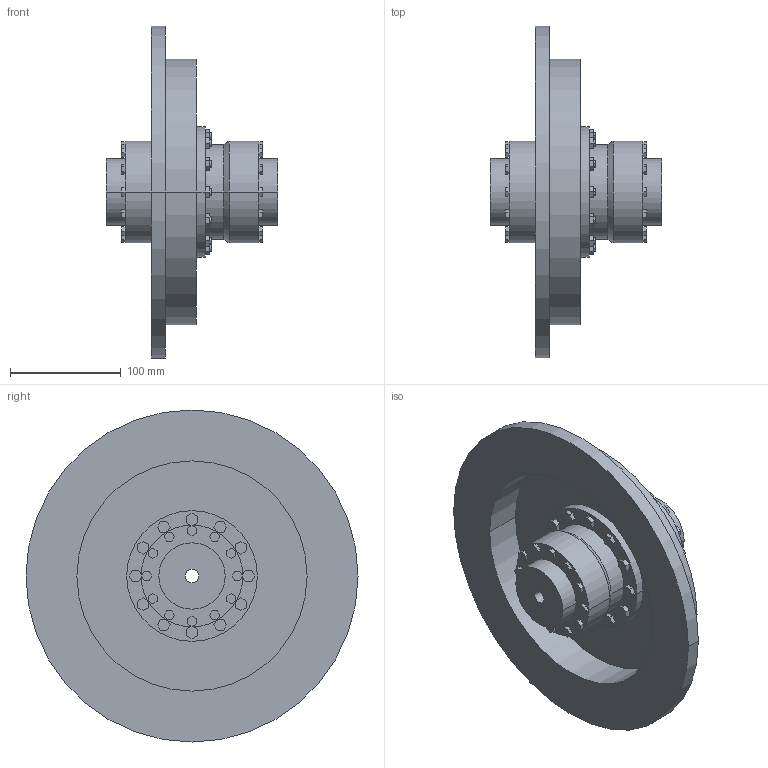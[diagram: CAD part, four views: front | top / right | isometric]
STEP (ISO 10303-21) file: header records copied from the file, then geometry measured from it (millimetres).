
FILE_DESCRIPTION((''),'2;1');
FILE_NAME('A19723700-0_ASM','2019-05-23T',('AB_Roschiwal'),('RENK AG'),'PRO/ENGINEER BY PARAMETRIC TECHNOLOGY CORPORATION, 2015440','PRO/ENGINEER BY PARAMETRIC TECHNOLOGY CORPORATION, 2015440','');
FILE_SCHEMA(('CONFIG_CONTROL_DESIGN'));
Length unit declared in the file: millimetre
Products named in the file (4): SBKT38_GEHAEUSE; SBKT38_NABE; SBKT38_BREMSSCHEIBE; A19723700-0_ASM
Assembly tree (4 placements, depth 2):
  A19723700-0_ASM
    SBKT38_GEHAEUSE
    SBKT38_NABE  x2
    SBKT38_BREMSSCHEIBE
Bounding box: 155 x 300 x 300 mm (x, y, z)
Volume: 1704536.8 mm3; surface area: 337773.4 mm2
Topology: 4 solids, 4 shells, 470 faces, 1156 edges, 768 vertices
Faces by surface type: plane 370, cylinder 96, cone 4
Entity records: 13604 total; most frequent: CARTESIAN_POINT 2350, ORIENTED_EDGE 2264, DIRECTION 2240, EDGE_CURVE 1132, VECTOR 956, LINE 956, VERTEX_POINT 752, AXIS2_PLACEMENT_3D 642
